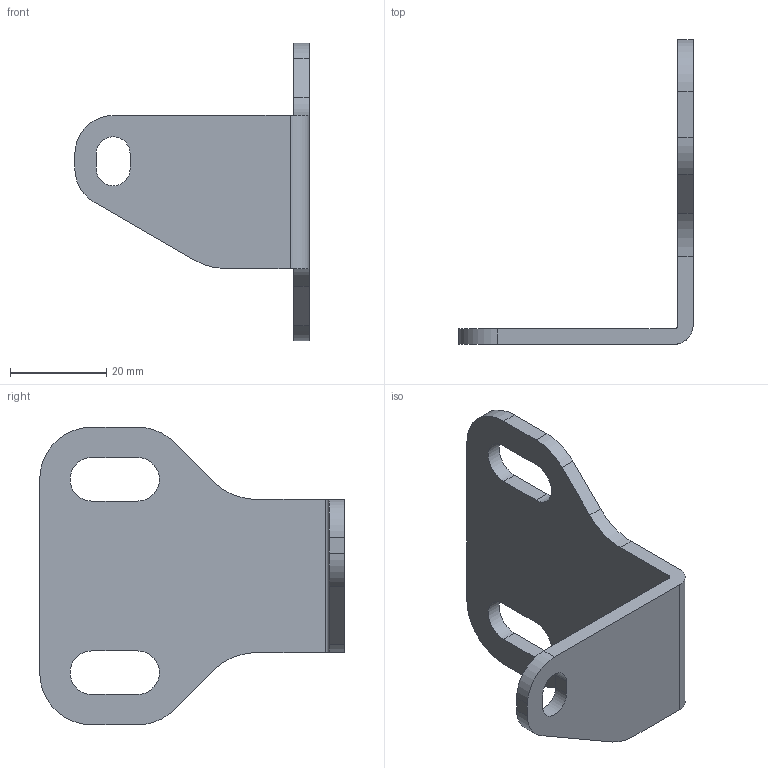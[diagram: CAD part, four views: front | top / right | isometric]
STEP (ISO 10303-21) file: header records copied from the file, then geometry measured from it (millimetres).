
FILE_DESCRIPTION (( 'STEP AP203' ), '1' );
FILE_NAME ('Oil Cooler Mounting Bracket Inner Lower Mirror REV1.STEP', '2024-06-23T23:00:41', ( '' ), ( '' ), 'SwSTEP 2.0', 'SolidWorks 2022', '' );
FILE_SCHEMA (( 'CONFIG_CONTROL_DESIGN' ));
Length unit declared in the file: inch
Products named in the file (1): Oil Cooler Mounting Bracket Inner Lower Mirror REV1
Bounding box: 48.58 x 63.18 x 61.7 mm (x, y, z)
Volume: 11854.1 mm3; surface area: 8789.6 mm2
Topology: 1 solids, 1 shells, 37 faces, 105 edges, 70 vertices
Faces by surface type: plane 19, cylinder 18
Entity records: 1306 total; most frequent: DIRECTION 217, CARTESIAN_POINT 213, ORIENTED_EDGE 210, EDGE_CURVE 105, AXIS2_PLACEMENT_3D 74, VERTEX_POINT 70, LINE 69, VECTOR 69
